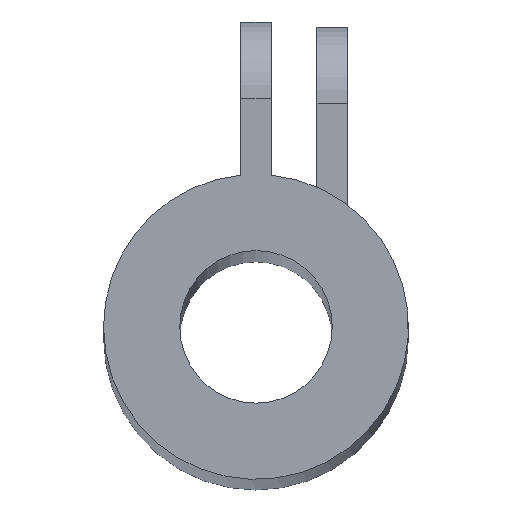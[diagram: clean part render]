
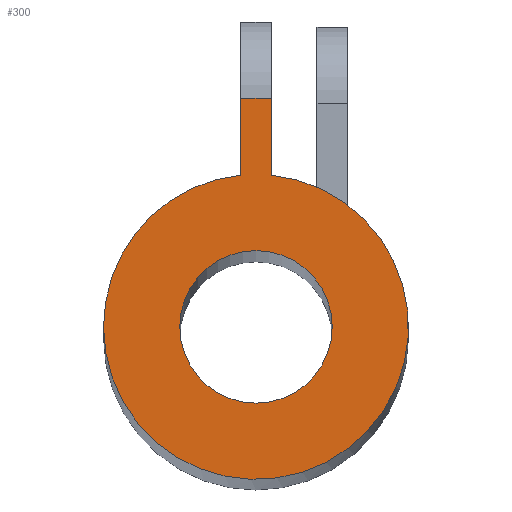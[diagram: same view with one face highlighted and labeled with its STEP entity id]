
A CAD part, top view. The second image highlights one B-rep face of the part: STEP entity #300.
In plain terms, the highlighted planar face has unit normal (0, 0, 1).
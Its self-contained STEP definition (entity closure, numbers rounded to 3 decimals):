
#28=FACE_BOUND('',#69,.T.);
#45=FACE_OUTER_BOUND('',#68,.T.);
#68=EDGE_LOOP('',(#267,#268,#269,#270,#271));
#69=EDGE_LOOP('',(#272));
#78=LINE('',#480,#99);
#82=LINE('',#491,#103);
#89=LINE('',#513,#110);
#99=VECTOR('',#386,10.);
#103=VECTOR('',#396,10.);
#110=VECTOR('',#423,10.);
#125=CIRCLE('',#348,5.);
#129=CIRCLE('',#355,10.);
#131=CIRCLE('',#357,10.);
#140=VERTEX_POINT('',#476);
#142=VERTEX_POINT('',#479);
#146=VERTEX_POINT('',#489);
#151=VERTEX_POINT('',#511);
#152=VERTEX_POINT('',#515);
#156=VERTEX_POINT('',#528);
#169=EDGE_CURVE('',#140,#142,#78,.T.);
#175=EDGE_CURVE('',#146,#140,#82,.T.);
#186=EDGE_CURVE('',#146,#151,#89,.T.);
#187=EDGE_CURVE('',#152,#152,#125,.T.);
#193=EDGE_CURVE('',#156,#142,#129,.T.);
#196=EDGE_CURVE('',#151,#156,#131,.T.);
#267=ORIENTED_EDGE('',*,*,#175,.F.);
#268=ORIENTED_EDGE('',*,*,#186,.T.);
#269=ORIENTED_EDGE('',*,*,#196,.T.);
#270=ORIENTED_EDGE('',*,*,#193,.T.);
#271=ORIENTED_EDGE('',*,*,#169,.F.);
#272=ORIENTED_EDGE('',*,*,#187,.T.);
#283=PLANE('',#358);
#300=ADVANCED_FACE('',(#45,#28),#283,.T.);
#348=AXIS2_PLACEMENT_3D('',#516,#426,#427);
#355=AXIS2_PLACEMENT_3D('',#529,#442,#443);
#357=AXIS2_PLACEMENT_3D('',#533,#447,#448);
#358=AXIS2_PLACEMENT_3D('',#534,#449,#450);
#386=DIRECTION('',(0.,-1.,0.));
#396=DIRECTION('',(1.,0.,0.));
#423=DIRECTION('',(0.,-1.,0.));
#426=DIRECTION('center_axis',(0.,0.,-1.));
#427=DIRECTION('ref_axis',(1.,0.,0.));
#442=DIRECTION('center_axis',(0.,0.,1.));
#443=DIRECTION('ref_axis',(1.,0.,0.));
#447=DIRECTION('center_axis',(0.,0.,1.));
#448=DIRECTION('ref_axis',(1.,0.,0.));
#449=DIRECTION('center_axis',(0.,0.,1.));
#450=DIRECTION('ref_axis',(1.,0.,0.));
#476=CARTESIAN_POINT('',(1.,15.,400.));
#479=CARTESIAN_POINT('',(1.,9.95,400.));
#480=CARTESIAN_POINT('',(1.,20.,400.));
#489=CARTESIAN_POINT('',(-1.,15.,400.));
#491=CARTESIAN_POINT('',(0.,15.,400.));
#511=CARTESIAN_POINT('',(-1.,9.95,400.));
#513=CARTESIAN_POINT('',(-1.,20.,400.));
#515=CARTESIAN_POINT('',(-5.,0.,400.));
#516=CARTESIAN_POINT('Origin',(0.,0.,400.));
#528=CARTESIAN_POINT('',(-10.,0.,400.));
#529=CARTESIAN_POINT('Origin',(0.,0.,400.));
#533=CARTESIAN_POINT('Origin',(0.,0.,400.));
#534=CARTESIAN_POINT('Origin',(0.,0.,400.));
